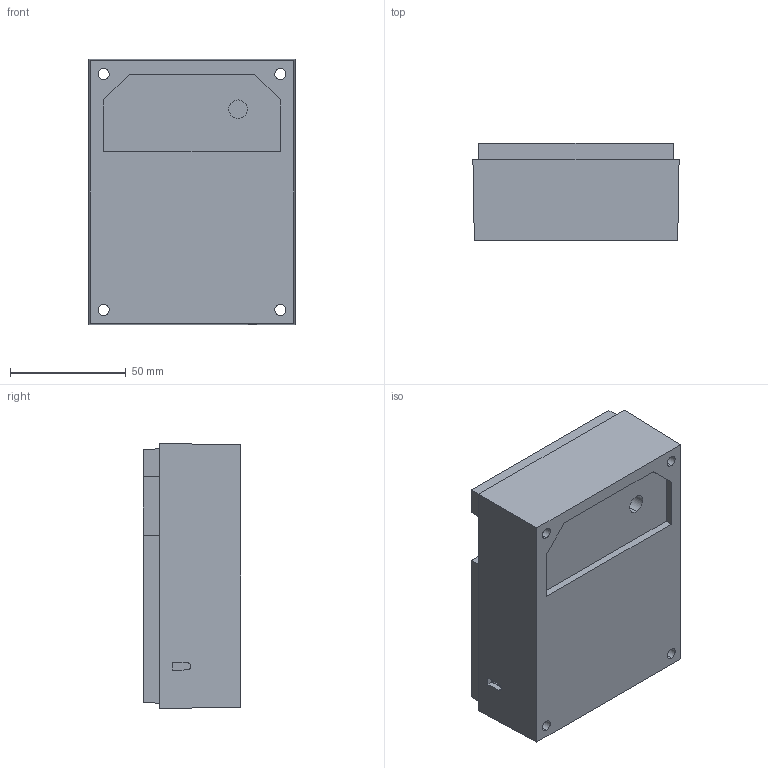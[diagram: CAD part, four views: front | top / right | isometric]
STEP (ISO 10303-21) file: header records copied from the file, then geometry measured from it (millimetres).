
FILE_DESCRIPTION (( 'STEP AP203' ), '1' );
FILE_NAME ('90296.STEP', '2014-03-10T19:49:24', ( 'Vulcan' ), ( 'Hewlett-Packard Company' ), 'SwSTEP 2.0', 'SolidWorks 2013', '' );
FILE_SCHEMA (( 'CONFIG_CONTROL_DESIGN' ));
Length unit declared in the file: inch
Products named in the file (1): 90296
Bounding box: 88.9 x 41.91 x 114.3 mm (x, y, z)
Volume: 95064.7 mm3; surface area: 78627.8 mm2
Topology: 1 solids, 5 shells, 353 faces, 928 edges, 618 vertices
Faces by surface type: plane 220, bspline 108, cylinder 25
Entity records: 16513 total; most frequent: CARTESIAN_POINT 8466, ORIENTED_EDGE 1856, DIRECTION 1226, EDGE_CURVE 928, LINE 630, VECTOR 630, VERTEX_POINT 618, EDGE_LOOP 398
